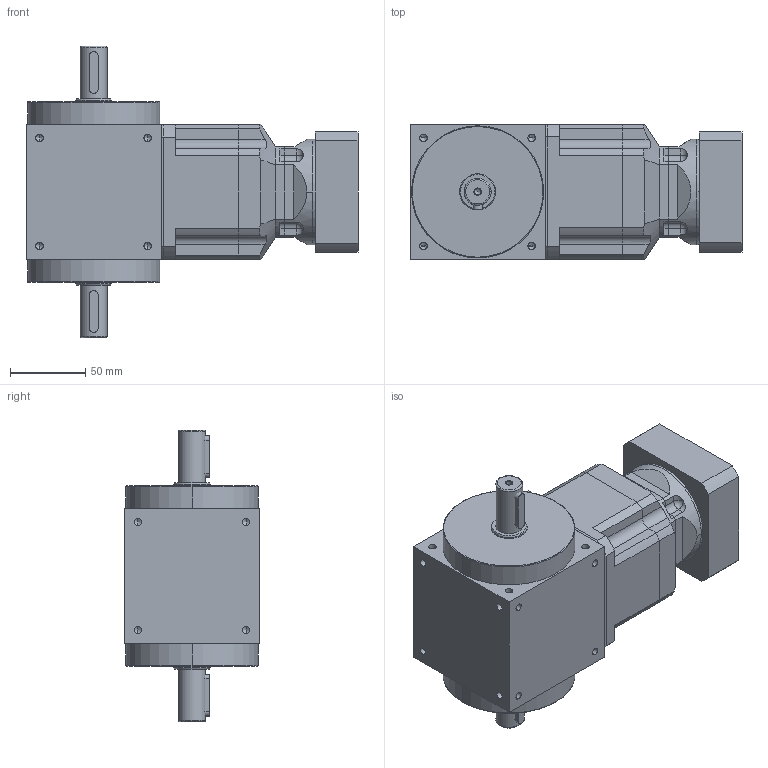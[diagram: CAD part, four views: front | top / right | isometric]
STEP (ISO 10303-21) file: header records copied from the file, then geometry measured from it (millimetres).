
FILE_DESCRIPTION(/* description */ (''),/* implementation_level */ '2;1');
FILE_NAME(/* name */ 'AT-090-FL（12-100）（19-70-90-M6）.stp',/* time_stamp */ '2024-12-06T20:38:43+08:00',/* author */ (''),/* organization */ (''),/* preprocessor_version */ 'ST-DEVELOPER v16',/* originating_system */ 'SIEMENS PLM Software NX 10.0',/* authorisation */ '');
FILE_SCHEMA (('CONFIG_CONTROL_DESIGN'));
Length unit declared in the file: millimetre
Products named in the file (1): AT-090-FL（12-100）（19-70-90-M5\X2\FF09
\X0\_stp
Bounding box: 221 x 90 x 194 mm (x, y, z)
Volume: 1695755.9 mm3; surface area: 180245.5 mm2
Topology: 11 solids, 11 shells, 466 faces, 1265 edges, 779 vertices
Faces by surface type: cylinder 218, plane 147, cone 85, torus 12, sphere 4
Full cylindrical faces by diameter (mm): 4.2 x2, 5 x8, 7 x4, 18 x2, 24 x1, 41.63 x1, 80 x1
Entity records: 14684 total; most frequent: CARTESIAN_POINT 3400, ORIENTED_EDGE 2378, DIRECTION 2324, EDGE_CURVE 1189, AXIS2_PLACEMENT_3D 895, VERTEX_POINT 781, EDGE_LOOP 550, LINE 534
